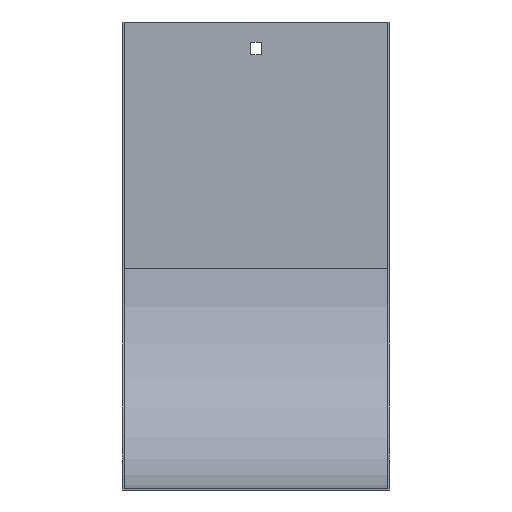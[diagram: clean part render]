
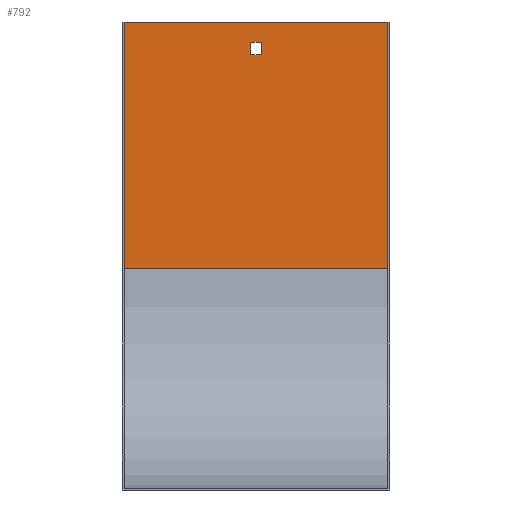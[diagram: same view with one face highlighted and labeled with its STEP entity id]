
A CAD part, front view. The second image highlights one B-rep face of the part: STEP entity #792.
In plain terms, the highlighted planar face has unit normal (0, -1, 0).
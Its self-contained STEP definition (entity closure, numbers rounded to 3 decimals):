
#16 = CARTESIAN_POINT ( 'NONE',  ( 76., -1., -11.5 ) ) ;
#23 = DIRECTION ( 'NONE',  ( 0., 0., -1. ) ) ;
#43 = VECTOR ( 'NONE', #387, 1000. ) ;
#45 = VECTOR ( 'NONE', #764, 1000. ) ;
#60 = VERTEX_POINT ( 'NONE', #812 ) ;
#67 = DIRECTION ( 'NONE',  ( 0., 0., 1. ) ) ;
#84 = DIRECTION ( 'NONE',  ( 0., -1., 0. ) ) ;
#94 = PLANE ( 'NONE',  #826 ) ;
#95 = DIRECTION ( 'NONE',  ( -1., 0., 0. ) ) ;
#104 = CARTESIAN_POINT ( 'NONE',  ( 3., -1., 0. ) ) ;
#126 = CARTESIAN_POINT ( 'NONE',  ( 76., -1., -140. ) ) ;
#142 = VERTEX_POINT ( 'NONE', #300 ) ;
#148 = VECTOR ( 'NONE', #572, 1000. ) ;
#170 = VECTOR ( 'NONE', #851, 1000. ) ;
#171 = EDGE_CURVE ( 'NONE', #584, #573, #696, .T. ) ;
#175 = EDGE_CURVE ( 'NONE', #615, #60, #824, .T. ) ;
#180 = ORIENTED_EDGE ( 'NONE', *, *, #477, .T. ) ;
#213 = CARTESIAN_POINT ( 'NONE',  ( 75., -1., -140. ) ) ;
#224 = EDGE_CURVE ( 'NONE', #713, #834, #424, .T. ) ;
#225 = CARTESIAN_POINT ( 'NONE',  ( -3., -1., 0. ) ) ;
#280 = VECTOR ( 'NONE', #95, 1000. ) ;
#290 = FACE_BOUND ( 'NONE', #549, .T. ) ;
#294 = CARTESIAN_POINT ( 'NONE',  ( -75., -1., -140. ) ) ;
#300 = CARTESIAN_POINT ( 'NONE',  ( 75., -1., 0. ) ) ;
#323 = LINE ( 'NONE', #397, #43 ) ;
#337 = LINE ( 'NONE', #814, #690 ) ;
#358 = FACE_OUTER_BOUND ( 'NONE', #662, .T. ) ;
#387 = DIRECTION ( 'NONE',  ( 1., 0., 0. ) ) ;
#397 = CARTESIAN_POINT ( 'NONE',  ( 76., -1., -18.5 ) ) ;
#413 = VERTEX_POINT ( 'NONE', #213 ) ;
#414 = EDGE_CURVE ( 'NONE', #413, #142, #806, .T. ) ;
#424 = LINE ( 'NONE', #104, #148 ) ;
#426 = CARTESIAN_POINT ( 'NONE',  ( -3., -1., -18.5 ) ) ;
#477 = EDGE_CURVE ( 'NONE', #142, #60, #337, .T. ) ;
#486 = CARTESIAN_POINT ( 'NONE',  ( 75., -1., -140. ) ) ;
#503 = CARTESIAN_POINT ( 'NONE',  ( -3., -1., -11.5 ) ) ;
#532 = DIRECTION ( 'NONE',  ( -1., 0., 0. ) ) ;
#536 = EDGE_CURVE ( 'NONE', #834, #584, #829, .T. ) ;
#549 = EDGE_LOOP ( 'NONE', ( #686, #734, #795, #844 ) ) ;
#552 = CARTESIAN_POINT ( 'NONE',  ( 76., -1., 0. ) ) ;
#564 = DIRECTION ( 'NONE',  ( 0., 0., -1. ) ) ;
#572 = DIRECTION ( 'NONE',  ( 0., 0., 1. ) ) ;
#573 = VERTEX_POINT ( 'NONE', #426 ) ;
#574 = CARTESIAN_POINT ( 'NONE',  ( -75., -1., -140. ) ) ;
#584 = VERTEX_POINT ( 'NONE', #503 ) ;
#602 = ORIENTED_EDGE ( 'NONE', *, *, #697, .F. ) ;
#615 = VERTEX_POINT ( 'NONE', #574 ) ;
#620 = VECTOR ( 'NONE', #67, 1000. ) ;
#662 = EDGE_LOOP ( 'NONE', ( #843, #602, #667, #180 ) ) ;
#667 = ORIENTED_EDGE ( 'NONE', *, *, #414, .T. ) ;
#686 = ORIENTED_EDGE ( 'NONE', *, *, #171, .F. ) ;
#690 = VECTOR ( 'NONE', #532, 1000. ) ;
#696 = LINE ( 'NONE', #225, #817 ) ;
#697 = EDGE_CURVE ( 'NONE', #413, #615, #855, .T. ) ;
#707 = EDGE_CURVE ( 'NONE', #573, #713, #323, .T. ) ;
#713 = VERTEX_POINT ( 'NONE', #863 ) ;
#734 = ORIENTED_EDGE ( 'NONE', *, *, #536, .F. ) ;
#764 = DIRECTION ( 'NONE',  ( 0., 0., 1. ) ) ;
#792 = ADVANCED_FACE ( 'NONE', ( #290, #358 ), #94, .T. ) ;
#795 = ORIENTED_EDGE ( 'NONE', *, *, #224, .F. ) ;
#806 = LINE ( 'NONE', #486, #620 ) ;
#812 = CARTESIAN_POINT ( 'NONE',  ( -75., -1., 0. ) ) ;
#814 = CARTESIAN_POINT ( 'NONE',  ( 76., -1., 0. ) ) ;
#817 = VECTOR ( 'NONE', #23, 1000. ) ;
#824 = LINE ( 'NONE', #294, #45 ) ;
#825 = CARTESIAN_POINT ( 'NONE',  ( 3., -1., -11.5 ) ) ;
#826 = AXIS2_PLACEMENT_3D ( 'NONE', #552, #84, #564 ) ;
#829 = LINE ( 'NONE', #16, #280 ) ;
#834 = VERTEX_POINT ( 'NONE', #825 ) ;
#843 = ORIENTED_EDGE ( 'NONE', *, *, #175, .F. ) ;
#844 = ORIENTED_EDGE ( 'NONE', *, *, #707, .F. ) ;
#851 = DIRECTION ( 'NONE',  ( -1., 0., 0. ) ) ;
#855 = LINE ( 'NONE', #126, #170 ) ;
#863 = CARTESIAN_POINT ( 'NONE',  ( 3., -1., -18.5 ) ) ;
